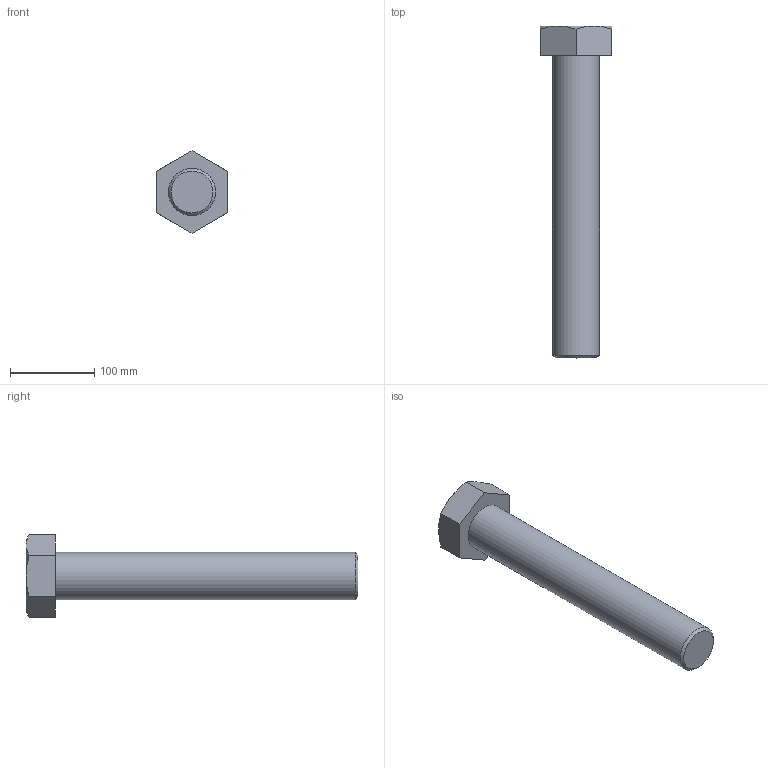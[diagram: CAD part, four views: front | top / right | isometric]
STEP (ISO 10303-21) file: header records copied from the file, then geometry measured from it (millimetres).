
FILE_DESCRIPTION(/* description */ (''),/* implementation_level */ '2;1');
FILE_NAME(/* name */ 'C:\Users\unitec\Documents\Inventor\各種小物\JIS\JIS B 1180 六角ボルト 等級C\hbc56\M56x360.stp',/* time_stamp */ '2015-02-13T15:00:20+09:00',/* author */ ('unitec'),/* organization */ (''),/* preprocessor_version */ 'ST-DEVELOPER v15.2',/* originating_system */ 'Autodesk Inventor 2014',/* authorisation */ '');
FILE_SCHEMA (('AUTOMOTIVE_DESIGN { 1 0 10303 214 3 1 1 }'));
Length unit declared in the file: millimetre
Products named in the file (1): M56x360
Bounding box: 85 x 395 x 98.15 mm (x, y, z)
Volume: 1104213.9 mm3; surface area: 85532.4 mm2
Topology: 1 solids, 1 shells, 17 faces, 35 edges, 21 vertices
Faces by surface type: plane 9, cone 7, cylinder 1
Full cylindrical faces by diameter (mm): 56 x1
Entity records: 441 total; most frequent: CARTESIAN_POINT 96, ORIENTED_EDGE 66, DIRECTION 66, EDGE_CURVE 33, AXIS2_PLACEMENT_3D 27, VERTEX_POINT 21, EDGE_LOOP 20, ADVANCED_FACE 17
